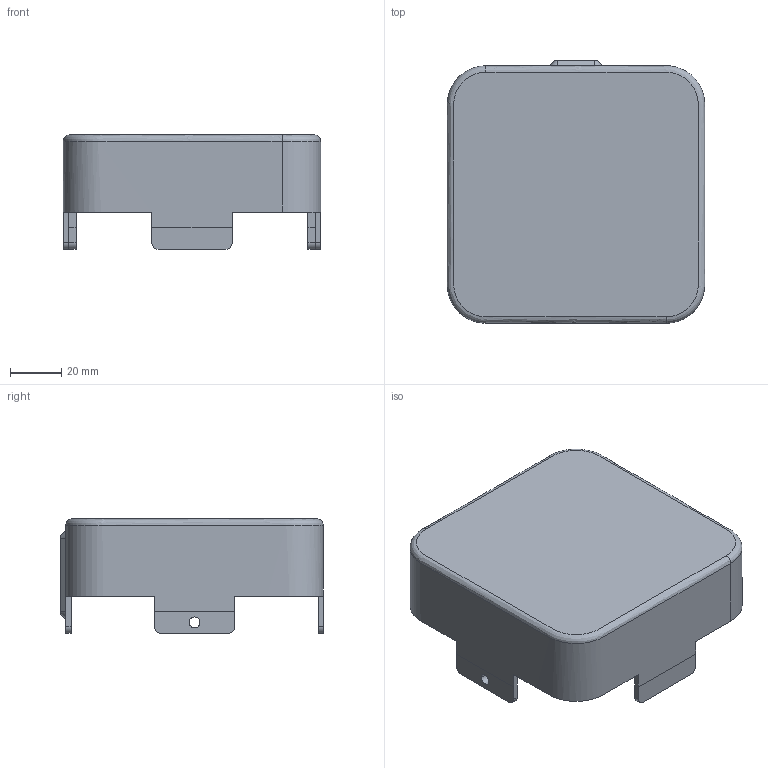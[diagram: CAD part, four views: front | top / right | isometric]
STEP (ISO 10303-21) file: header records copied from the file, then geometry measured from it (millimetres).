
FILE_DESCRIPTION(/* description */ (''),/* implementation_level */ '2;1');
FILE_NAME(/* name */ 'Base Top Test - Cap V3',/* time_stamp */ '2025-06-01T17:59:47-04:00',/* author */ (''),/* organization */ (''),/* preprocessor_version */ 'ST-DEVELOPER v19.2',/* originating_system */ 'Rhino 8.19',/* authorisation */ '');
FILE_SCHEMA (('CONFIG_CONTROL_DESIGN'));
Length unit declared in the file: millimetre
Products named in the file (1): Document
Bounding box: 100 x 102 x 44.4 mm (x, y, z)
Volume: 73498.5 mm3; surface area: 43805.8 mm2
Topology: 1 solids, 1 shells, 150 faces, 387 edges, 236 vertices
Faces by surface type: plane 111, cylinder 28, bspline 11
Entity records: 4677 total; most frequent: CARTESIAN_POINT 1723, ORIENTED_EDGE 774, EDGE_CURVE 387, B_SPLINE_CURVE_WITH_KNOTS 272, DIRECTION 267, VERTEX_POINT 236, AXIS2_PLACEMENT_3D 203, EDGE_LOOP 157
